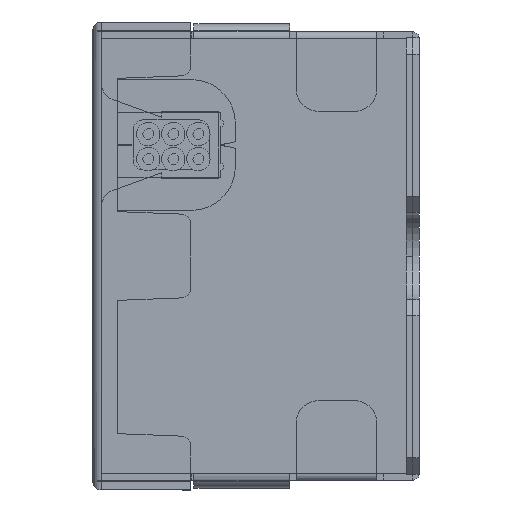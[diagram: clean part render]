
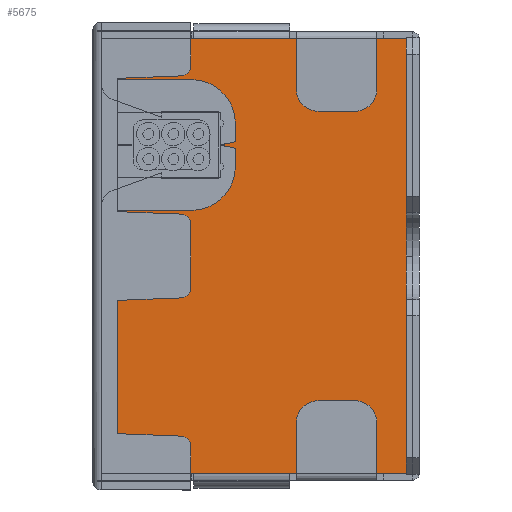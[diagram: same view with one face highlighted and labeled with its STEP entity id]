
A CAD part, left-side view. The second image highlights one B-rep face of the part: STEP entity #5675.
In plain terms, the highlighted planar face has unit normal (-1, 0, 0) as drawn and (0, 0, 1) by its records, which use the part's own axes.
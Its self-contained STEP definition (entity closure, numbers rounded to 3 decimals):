
#73 = VECTOR ( 'NONE', #16982, 1000. ) ;
#159 = CARTESIAN_POINT ( 'NONE',  ( -20., 154., 0.6 ) ) ;
#208 = VECTOR ( 'NONE', #2791, 1000. ) ;
#357 = CARTESIAN_POINT ( 'NONE',  ( 13.25, 3.25, 0.6 ) ) ;
#534 = CARTESIAN_POINT ( 'NONE',  ( 6.007, 13.013, 0.6 ) ) ;
#633 = EDGE_CURVE ( 'NONE', #12035, #10564, #18099, .T. ) ;
#741 = CARTESIAN_POINT ( 'NONE',  ( 7.15, -14., 0.6 ) ) ;
#821 = CARTESIAN_POINT ( 'NONE',  ( 4.598, 12.5, 0.6 ) ) ;
#1015 = LINE ( 'NONE', #11100, #73 ) ;
#1028 = ORIENTED_EDGE ( 'NONE', *, *, #6750, .T. ) ;
#1202 = CARTESIAN_POINT ( 'NONE',  ( 1.688, -21.894, 0.6 ) ) ;
#1617 = EDGE_CURVE ( 'NONE', #8263, #9667, #11043, .T. ) ;
#1645 = CARTESIAN_POINT ( 'NONE',  ( 20., 14., 0.6 ) ) ;
#2333 = ORIENTED_EDGE ( 'NONE', *, *, #3353, .T. ) ;
#2423 = EDGE_CURVE ( 'NONE', #12432, #10352, #10717, .T. ) ;
#2584 = DIRECTION ( 'NONE',  ( -1., 0., 0. ) ) ;
#2666 = AXIS2_PLACEMENT_3D ( 'NONE', #14456, #6930, #16029 ) ;
#2695 = DIRECTION ( 'NONE',  ( -1., 0., 0. ) ) ;
#2791 = DIRECTION ( 'NONE',  ( 0., 1., 0. ) ) ;
#2895 = LINE ( 'NONE', #7247, #8074 ) ;
#3253 = EDGE_CURVE ( 'NONE', #6903, #10312, #14424, .T. ) ;
#3353 = EDGE_CURVE ( 'NONE', #7873, #12035, #4377, .T. ) ;
#3666 = LINE ( 'NONE', #17919, #6243 ) ;
#3716 = ORIENTED_EDGE ( 'NONE', *, *, #3253, .T. ) ;
#3779 = CARTESIAN_POINT ( 'NONE',  ( -20., 3.25, 0.6 ) ) ;
#3939 = DIRECTION ( 'NONE',  ( -0.342, -0.94, 0. ) ) ;
#4232 = CARTESIAN_POINT ( 'NONE',  ( -20., 14., 0.6 ) ) ;
#4256 = VECTOR ( 'NONE', #11693, 1000. ) ;
#4281 = AXIS2_PLACEMENT_3D ( 'NONE', #18501, #12804, #11172 ) ;
#4377 = CIRCLE ( 'NONE', #4281, 1.5 ) ;
#4471 = CARTESIAN_POINT ( 'NONE',  ( 12.75, 8.5, 0.6 ) ) ;
#4665 = LINE ( 'NONE', #13056, #13045 ) ;
#4877 = EDGE_CURVE ( 'NONE', #14852, #18089, #12039, .T. ) ;
#4925 = CARTESIAN_POINT ( 'NONE',  ( 13.25, 8.5, 0.6 ) ) ;
#5308 = DIRECTION ( 'NONE',  ( 0., 0., 1. ) ) ;
#5566 = EDGE_CURVE ( 'NONE', #15303, #6903, #11760, .T. ) ;
#5580 = ORIENTED_EDGE ( 'NONE', *, *, #4877, .T. ) ;
#5598 = PLANE ( 'NONE',  #2666 ) ;
#5652 = CARTESIAN_POINT ( 'NONE',  ( -20., 8.5, 0.6 ) ) ;
#5653 = DIRECTION ( 'NONE',  ( 1., 0., 0. ) ) ;
#5675 = ADVANCED_FACE ( 'NONE', ( #6651 ), #5598, .T. ) ;
#5728 = VECTOR ( 'NONE', #3939, 1000. ) ;
#5908 = DIRECTION ( 'NONE',  ( 0., -1., 0. ) ) ;
#6100 = CARTESIAN_POINT ( 'NONE',  ( 20., 5.5, 0.6 ) ) ;
#6243 = VECTOR ( 'NONE', #8944, 1000. ) ;
#6255 = VECTOR ( 'NONE', #5653, 1000. ) ;
#6445 = LINE ( 'NONE', #18022, #10386 ) ;
#6651 = FACE_OUTER_BOUND ( 'NONE', #9457, .T. ) ;
#6685 = CARTESIAN_POINT ( 'NONE',  ( 20., 14., 0.6 ) ) ;
#6750 = EDGE_CURVE ( 'NONE', #10312, #8263, #7784, .T. ) ;
#6903 = VERTEX_POINT ( 'NONE', #16461 ) ;
#6930 = DIRECTION ( 'NONE',  ( 0., 0., 1. ) ) ;
#7112 = EDGE_CURVE ( 'NONE', #11366, #9336, #1015, .T. ) ;
#7247 = CARTESIAN_POINT ( 'NONE',  ( -20., 14., 0.6 ) ) ;
#7784 = LINE ( 'NONE', #5652, #4256 ) ;
#7835 = VECTOR ( 'NONE', #18580, 1000. ) ;
#7873 = VERTEX_POINT ( 'NONE', #17546 ) ;
#7904 = VERTEX_POINT ( 'NONE', #10349 ) ;
#7913 = EDGE_CURVE ( 'NONE', #7904, #12631, #15427, .T. ) ;
#8074 = VECTOR ( 'NONE', #2584, 1000. ) ;
#8263 = VERTEX_POINT ( 'NONE', #12800 ) ;
#8454 = ORIENTED_EDGE ( 'NONE', *, *, #1617, .T. ) ;
#8606 = DIRECTION ( 'NONE',  ( 0., -1., 0. ) ) ;
#8796 = VECTOR ( 'NONE', #15546, 1000. ) ;
#8944 = DIRECTION ( 'NONE',  ( 1., 0., 0. ) ) ;
#9025 = ORIENTED_EDGE ( 'NONE', *, *, #16347, .T. ) ;
#9069 = LINE ( 'NONE', #10079, #6255 ) ;
#9253 = ORIENTED_EDGE ( 'NONE', *, *, #17032, .F. ) ;
#9336 = VERTEX_POINT ( 'NONE', #11598 ) ;
#9437 = ORIENTED_EDGE ( 'NONE', *, *, #12969, .T. ) ;
#9457 = EDGE_LOOP ( 'NONE', ( #17264, #2333, #9553, #9437, #18791, #13419, #3716, #1028, #8454, #15470, #15681, #18953, #9573, #15432, #9025, #10212, #9253, #5580 ) ) ;
#9553 = ORIENTED_EDGE ( 'NONE', *, *, #633, .T. ) ;
#9554 = VECTOR ( 'NONE', #14284, 1000. ) ;
#9555 = CARTESIAN_POINT ( 'NONE',  ( 14.393, 13.013, 0.6 ) ) ;
#9573 = ORIENTED_EDGE ( 'NONE', *, *, #15745, .T. ) ;
#9667 = VERTEX_POINT ( 'NONE', #534 ) ;
#10079 = CARTESIAN_POINT ( 'NONE',  ( -20., 8.5, 0.6 ) ) ;
#10212 = ORIENTED_EDGE ( 'NONE', *, *, #7112, .T. ) ;
#10312 = VERTEX_POINT ( 'NONE', #15770 ) ;
#10349 = CARTESIAN_POINT ( 'NONE',  ( -20., -3.3, 0.6 ) ) ;
#10352 = VERTEX_POINT ( 'NONE', #14634 ) ;
#10386 = VECTOR ( 'NONE', #5908, 1000. ) ;
#10564 = VERTEX_POINT ( 'NONE', #4471 ) ;
#10613 = CIRCLE ( 'NONE', #10976, 1.5 ) ;
#10717 = LINE ( 'NONE', #11410, #9554 ) ;
#10813 = CARTESIAN_POINT ( 'NONE',  ( -20., -14., 0.6 ) ) ;
#10976 = AXIS2_PLACEMENT_3D ( 'NONE', #821, #5308, #14029 ) ;
#11043 = LINE ( 'NONE', #13978, #16645 ) ;
#11100 = CARTESIAN_POINT ( 'NONE',  ( 20., 14., 0.6 ) ) ;
#11172 = DIRECTION ( 'NONE',  ( 1., 0., 0. ) ) ;
#11366 = VERTEX_POINT ( 'NONE', #16930 ) ;
#11410 = CARTESIAN_POINT ( 'NONE',  ( -20., 14., 0.6 ) ) ;
#11598 = CARTESIAN_POINT ( 'NONE',  ( 20., -3.3, 0.6 ) ) ;
#11618 = EDGE_CURVE ( 'NONE', #18089, #7873, #4665, .T. ) ;
#11693 = DIRECTION ( 'NONE',  ( 1., 0., 0. ) ) ;
#11760 = LINE ( 'NONE', #3779, #7835 ) ;
#12035 = VERTEX_POINT ( 'NONE', #9555 ) ;
#12039 = LINE ( 'NONE', #6685, #8796 ) ;
#12432 = VERTEX_POINT ( 'NONE', #4232 ) ;
#12631 = VERTEX_POINT ( 'NONE', #10813 ) ;
#12737 = LINE ( 'NONE', #17518, #14370 ) ;
#12800 = CARTESIAN_POINT ( 'NONE',  ( 7.65, 8.5, 0.6 ) ) ;
#12804 = DIRECTION ( 'NONE',  ( 0., 0., 1. ) ) ;
#12969 = EDGE_CURVE ( 'NONE', #10564, #19051, #9069, .T. ) ;
#13045 = VECTOR ( 'NONE', #2695, 1000. ) ;
#13056 = CARTESIAN_POINT ( 'NONE',  ( -20., 14., 0.6 ) ) ;
#13419 = ORIENTED_EDGE ( 'NONE', *, *, #5566, .T. ) ;
#13978 = CARTESIAN_POINT ( 'NONE',  ( 11.647, -2.481, 0.6 ) ) ;
#14029 = DIRECTION ( 'NONE',  ( 1., 0., 0. ) ) ;
#14217 = EDGE_CURVE ( 'NONE', #19051, #15303, #12737, .T. ) ;
#14284 = DIRECTION ( 'NONE',  ( 0., -1., 0. ) ) ;
#14370 = VECTOR ( 'NONE', #8606, 1000. ) ;
#14424 = LINE ( 'NONE', #741, #208 ) ;
#14456 = CARTESIAN_POINT ( 'NONE',  ( -20., -14., 0.6 ) ) ;
#14634 = CARTESIAN_POINT ( 'NONE',  ( -20., 5.5, 0.6 ) ) ;
#14852 = VERTEX_POINT ( 'NONE', #6100 ) ;
#14897 = VERTEX_POINT ( 'NONE', #16515 ) ;
#15303 = VERTEX_POINT ( 'NONE', #357 ) ;
#15427 = LINE ( 'NONE', #17600, #17747 ) ;
#15432 = ORIENTED_EDGE ( 'NONE', *, *, #7913, .T. ) ;
#15470 = ORIENTED_EDGE ( 'NONE', *, *, #17229, .T. ) ;
#15546 = DIRECTION ( 'NONE',  ( 0., 1., 0. ) ) ;
#15681 = ORIENTED_EDGE ( 'NONE', *, *, #17334, .T. ) ;
#15745 = EDGE_CURVE ( 'NONE', #10352, #7904, #16288, .T. ) ;
#15770 = CARTESIAN_POINT ( 'NONE',  ( 7.15, 8.5, 0.6 ) ) ;
#16029 = DIRECTION ( 'NONE',  ( 1., 0., 0. ) ) ;
#16288 = LINE ( 'NONE', #159, #17457 ) ;
#16347 = EDGE_CURVE ( 'NONE', #12631, #11366, #3666, .T. ) ;
#16461 = CARTESIAN_POINT ( 'NONE',  ( 7.15, 3.25, 0.6 ) ) ;
#16515 = CARTESIAN_POINT ( 'NONE',  ( 4.598, 14., 0.6 ) ) ;
#16645 = VECTOR ( 'NONE', #18240, 1000. ) ;
#16767 = DIRECTION ( 'NONE',  ( 0., -1., 0. ) ) ;
#16930 = CARTESIAN_POINT ( 'NONE',  ( 20., -14., 0.6 ) ) ;
#16982 = DIRECTION ( 'NONE',  ( 0., 1., 0. ) ) ;
#17032 = EDGE_CURVE ( 'NONE', #14852, #9336, #6445, .T. ) ;
#17229 = EDGE_CURVE ( 'NONE', #9667, #14897, #10613, .T. ) ;
#17264 = ORIENTED_EDGE ( 'NONE', *, *, #11618, .T. ) ;
#17334 = EDGE_CURVE ( 'NONE', #14897, #12432, #2895, .T. ) ;
#17457 = VECTOR ( 'NONE', #16767, 1000. ) ;
#17518 = CARTESIAN_POINT ( 'NONE',  ( 13.25, -14., 0.6 ) ) ;
#17546 = CARTESIAN_POINT ( 'NONE',  ( 15.802, 14., 0.6 ) ) ;
#17600 = CARTESIAN_POINT ( 'NONE',  ( -20., 14., 0.6 ) ) ;
#17747 = VECTOR ( 'NONE', #19036, 1000. ) ;
#17919 = CARTESIAN_POINT ( 'NONE',  ( -20., -14., 0.6 ) ) ;
#18022 = CARTESIAN_POINT ( 'NONE',  ( 20., 154., 0.6 ) ) ;
#18089 = VERTEX_POINT ( 'NONE', #1645 ) ;
#18099 = LINE ( 'NONE', #1202, #5728 ) ;
#18240 = DIRECTION ( 'NONE',  ( -0.342, 0.94, 0. ) ) ;
#18501 = CARTESIAN_POINT ( 'NONE',  ( 15.802, 12.5, 0.6 ) ) ;
#18580 = DIRECTION ( 'NONE',  ( -1., 0., 0. ) ) ;
#18791 = ORIENTED_EDGE ( 'NONE', *, *, #14217, .T. ) ;
#18953 = ORIENTED_EDGE ( 'NONE', *, *, #2423, .T. ) ;
#19036 = DIRECTION ( 'NONE',  ( 0., -1., 0. ) ) ;
#19051 = VERTEX_POINT ( 'NONE', #4925 ) ;
